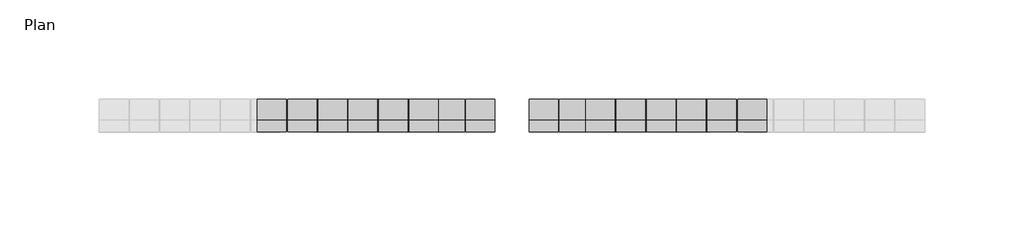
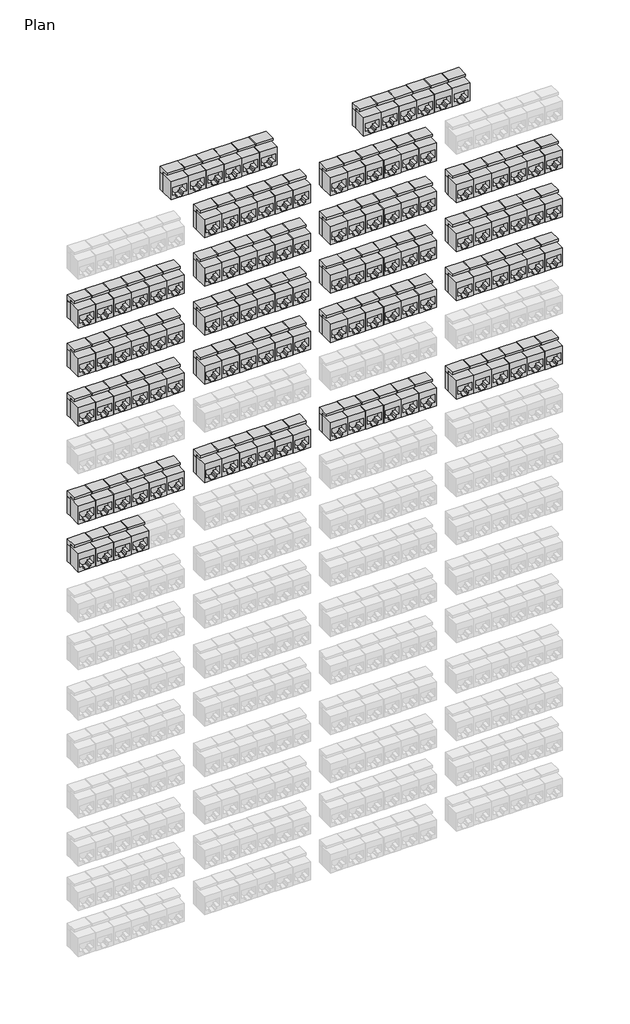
# One storey, part 1 of 3: 124 electric appliances.
"""IFC4 building model written with IfcOpenShell, lengths in millimetres."""

from ifc_helpers import new_model, si_unit, origin, place, context, project, spatial, transform, mapped, element, save
from components import cat_6_282648a7

model = new_model("IFC4")

# Units and contexts
model_context = context("Model", 3, world=origin())
ifc_project = project(units=[si_unit("LENGTHUNIT", "METRE", prefix="MILLI")], contexts=[model_context])

# Site, building, storey
site = spatial("IfcSite", under=ifc_project)
building = spatial("IfcBuilding", under=site)
storey = spatial("IfcBuildingStorey", under=building, Name="Plan", Elevation=0.0)

# Electric appliances
placement = place(None, origin())
cat_6_shape = cat_6_282648a7(model_context)
element("IfcElectricAppliance", 1, ObjectType="Data_Device-Network-Leviton-Connector-Copper-110_Style : CAT 6", at=placement, inside=storey, context=model_context, shape_type="MappedRepresentation", body=[
    mapped(cat_6_shape, transform((2671.529801, -458.5752001, 575.6402), x_axis=(1.0, 0.0, 0.0), y_axis=(0.0, 0.0, 1.0), z_axis=(0.0, -1.0, 0.0))),
])
element("IfcElectricAppliance", 2, ObjectType="Data_Device-Network-Leviton-Connector-Copper-110_Style : CAT 6", at=placement, inside=storey, context=model_context, shape_type="MappedRepresentation", body=[
    mapped(cat_6_shape, transform((2686.769801, -458.5752001, 575.6402), x_axis=(1.0, 0.0, 0.0), y_axis=(0.0, 0.0, 1.0), z_axis=(0.0, -1.0, 0.0))),
])
element("IfcElectricAppliance", 3, ObjectType="Data_Device-Network-Leviton-Connector-Copper-110_Style : CAT 6", at=placement, inside=storey, context=model_context, shape_type="MappedRepresentation", body=[
    mapped(cat_6_shape, transform((2702.009801, -458.5752001, 575.6402), x_axis=(1.0, 0.0, 0.0), y_axis=(0.0, 0.0, 1.0), z_axis=(0.0, -1.0, 0.0))),
])
element("IfcElectricAppliance", 4, ObjectType="Data_Device-Network-Leviton-Connector-Copper-110_Style : CAT 6", at=placement, inside=storey, context=model_context, shape_type="MappedRepresentation", body=[
    mapped(cat_6_shape, transform((2717.249801, -458.5752001, 575.6402), x_axis=(1.0, 0.0, 0.0), y_axis=(0.0, 0.0, 1.0), z_axis=(0.0, -1.0, 0.0))),
])
element("IfcElectricAppliance", 5, ObjectType="Data_Device-Network-Leviton-Connector-Copper-110_Style : CAT 6", at=placement, inside=storey, context=model_context, shape_type="MappedRepresentation", body=[
    mapped(cat_6_shape, transform((2732.489801, -458.5752001, 575.6402), x_axis=(1.0, 0.0, 0.0), y_axis=(0.0, 0.0, 1.0), z_axis=(0.0, -1.0, 0.0))),
])
element("IfcElectricAppliance", 6, ObjectType="Data_Device-Network-Leviton-Connector-Copper-110_Style : CAT 6", at=placement, inside=storey, context=model_context, shape_type="MappedRepresentation", body=[
    mapped(cat_6_shape, transform((2747.729801, -458.5752001, 575.6402), x_axis=(1.0, 0.0, 0.0), y_axis=(0.0, 0.0, 1.0), z_axis=(0.0, -1.0, 0.0))),
])
element("IfcElectricAppliance", 7, ObjectType="Data_Device-Network-Leviton-Connector-Copper-110_Style : CAT 6", at=placement, inside=storey, context=model_context, shape_type="MappedRepresentation", body=[
    mapped(cat_6_shape, transform((2836.629801, -458.5752001, 575.6402), x_axis=(1.0, 0.0, 0.0), y_axis=(0.0, 0.0, 1.0), z_axis=(0.0, -1.0, 0.0))),
])
element("IfcElectricAppliance", 8, ObjectType="Data_Device-Network-Leviton-Connector-Copper-110_Style : CAT 6", at=placement, inside=storey, context=model_context, shape_type="MappedRepresentation", body=[
    mapped(cat_6_shape, transform((2851.869801, -458.5752001, 575.6402), x_axis=(1.0, 0.0, 0.0), y_axis=(0.0, 0.0, 1.0), z_axis=(0.0, -1.0, 0.0))),
])
element("IfcElectricAppliance", 9, ObjectType="Data_Device-Network-Leviton-Connector-Copper-110_Style : CAT 6", at=placement, inside=storey, context=model_context, shape_type="MappedRepresentation", body=[
    mapped(cat_6_shape, transform((2867.109801, -458.5752001, 575.6402), x_axis=(1.0, 0.0, 0.0), y_axis=(0.0, 0.0, 1.0), z_axis=(0.0, -1.0, 0.0))),
])
element("IfcElectricAppliance", 10, ObjectType="Data_Device-Network-Leviton-Connector-Copper-110_Style : CAT 6", at=placement, inside=storey, context=model_context, shape_type="MappedRepresentation", body=[
    mapped(cat_6_shape, transform((2882.349801, -458.5752001, 575.6402), x_axis=(1.0, 0.0, 0.0), y_axis=(0.0, 0.0, 1.0), z_axis=(0.0, -1.0, 0.0))),
])
element("IfcElectricAppliance", 11, ObjectType="Data_Device-Network-Leviton-Connector-Copper-110_Style : CAT 6", at=placement, inside=storey, context=model_context, shape_type="MappedRepresentation", body=[
    mapped(cat_6_shape, transform((2897.589801, -458.5752001, 575.6402), x_axis=(1.0, 0.0, 0.0), y_axis=(0.0, 0.0, 1.0), z_axis=(0.0, -1.0, 0.0))),
])
element("IfcElectricAppliance", 12, ObjectType="Data_Device-Network-Leviton-Connector-Copper-110_Style : CAT 6", at=placement, inside=storey, context=model_context, shape_type="MappedRepresentation", body=[
    mapped(cat_6_shape, transform((2912.829801, -458.5752001, 575.6402), x_axis=(1.0, 0.0, 0.0), y_axis=(0.0, 0.0, 1.0), z_axis=(0.0, -1.0, 0.0))),
])
element("IfcElectricAppliance", 13, ObjectType="Data_Device-Network-Leviton-Connector-Copper-110_Style : CAT 6", at=placement, inside=storey, context=model_context, shape_type="MappedRepresentation", body=[
    mapped(cat_6_shape, transform((2700.104801, -458.5752001, 531.4969969), x_axis=(1.0, 0.0, 0.0), y_axis=(0.0, 0.0, 1.0), z_axis=(0.0, -1.0, 0.0))),
])
element("IfcElectricAppliance", 14, ObjectType="Data_Device-Network-Leviton-Connector-Copper-110_Style : CAT 6", at=placement, inside=storey, context=model_context, shape_type="MappedRepresentation", body=[
    mapped(cat_6_shape, transform((2715.344801, -458.5752001, 531.4969969), x_axis=(1.0, 0.0, 0.0), y_axis=(0.0, 0.0, 1.0), z_axis=(0.0, -1.0, 0.0))),
])
element("IfcElectricAppliance", 15, ObjectType="Data_Device-Network-Leviton-Connector-Copper-110_Style : CAT 6", at=placement, inside=storey, context=model_context, shape_type="MappedRepresentation", body=[
    mapped(cat_6_shape, transform((2730.584801, -458.5752001, 531.4969969), x_axis=(1.0, 0.0, 0.0), y_axis=(0.0, 0.0, 1.0), z_axis=(0.0, -1.0, 0.0))),
])
element("IfcElectricAppliance", 16, ObjectType="Data_Device-Network-Leviton-Connector-Copper-110_Style : CAT 6", at=placement, inside=storey, context=model_context, shape_type="MappedRepresentation", body=[
    mapped(cat_6_shape, transform((2745.824801, -458.5752001, 531.4969969), x_axis=(1.0, 0.0, 0.0), y_axis=(0.0, 0.0, 1.0), z_axis=(0.0, -1.0, 0.0))),
])
element("IfcElectricAppliance", 17, ObjectType="Data_Device-Network-Leviton-Connector-Copper-110_Style : CAT 6", at=placement, inside=storey, context=model_context, shape_type="MappedRepresentation", body=[
    mapped(cat_6_shape, transform((2761.064801, -458.5752001, 531.4969969), x_axis=(1.0, 0.0, 0.0), y_axis=(0.0, 0.0, 1.0), z_axis=(0.0, -1.0, 0.0))),
])
element("IfcElectricAppliance", 18, ObjectType="Data_Device-Network-Leviton-Connector-Copper-110_Style : CAT 6", at=placement, inside=storey, context=model_context, shape_type="MappedRepresentation", body=[
    mapped(cat_6_shape, transform((2776.304801, -458.5752001, 531.4969969), x_axis=(1.0, 0.0, 0.0), y_axis=(0.0, 0.0, 1.0), z_axis=(0.0, -1.0, 0.0))),
])
element("IfcElectricAppliance", 19, ObjectType="Data_Device-Network-Leviton-Connector-Copper-110_Style : CAT 6", at=placement, inside=storey, context=model_context, shape_type="MappedRepresentation", body=[
    mapped(cat_6_shape, transform((2808.054801, -458.5752001, 531.4969969), x_axis=(1.0, 0.0, 0.0), y_axis=(0.0, 0.0, 1.0), z_axis=(0.0, -1.0, 0.0))),
])
element("IfcElectricAppliance", 20, ObjectType="Data_Device-Network-Leviton-Connector-Copper-110_Style : CAT 6", at=placement, inside=storey, context=model_context, shape_type="MappedRepresentation", body=[
    mapped(cat_6_shape, transform((2823.294801, -458.5752001, 531.4969969), x_axis=(1.0, 0.0, 0.0), y_axis=(0.0, 0.0, 1.0), z_axis=(0.0, -1.0, 0.0))),
])
element("IfcElectricAppliance", 21, ObjectType="Data_Device-Network-Leviton-Connector-Copper-110_Style : CAT 6", at=placement, inside=storey, context=model_context, shape_type="MappedRepresentation", body=[
    mapped(cat_6_shape, transform((2838.534801, -458.5752001, 531.4969969), x_axis=(1.0, 0.0, 0.0), y_axis=(0.0, 0.0, 1.0), z_axis=(0.0, -1.0, 0.0))),
])
element("IfcElectricAppliance", 22, ObjectType="Data_Device-Network-Leviton-Connector-Copper-110_Style : CAT 6", at=placement, inside=storey, context=model_context, shape_type="MappedRepresentation", body=[
    mapped(cat_6_shape, transform((2853.774801, -458.5752001, 531.4969969), x_axis=(1.0, 0.0, 0.0), y_axis=(0.0, 0.0, 1.0), z_axis=(0.0, -1.0, 0.0))),
])
element("IfcElectricAppliance", 23, ObjectType="Data_Device-Network-Leviton-Connector-Copper-110_Style : CAT 6", at=placement, inside=storey, context=model_context, shape_type="MappedRepresentation", body=[
    mapped(cat_6_shape, transform((2869.014801, -458.5752001, 531.4969969), x_axis=(1.0, 0.0, 0.0), y_axis=(0.0, 0.0, 1.0), z_axis=(0.0, -1.0, 0.0))),
])
element("IfcElectricAppliance", 24, ObjectType="Data_Device-Network-Leviton-Connector-Copper-110_Style : CAT 6", at=placement, inside=storey, context=model_context, shape_type="MappedRepresentation", body=[
    mapped(cat_6_shape, transform((2884.254801, -458.5752001, 531.4969969), x_axis=(1.0, 0.0, 0.0), y_axis=(0.0, 0.0, 1.0), z_axis=(0.0, -1.0, 0.0))),
])
element("IfcElectricAppliance", 25, ObjectType="Data_Device-Network-Leviton-Connector-Copper-110_Style : CAT 6", at=placement, inside=storey, context=model_context, shape_type="MappedRepresentation", body=[
    mapped(cat_6_shape, transform((2592.154801, -458.5752001, 487.3537939), x_axis=(1.0, 0.0, 0.0), y_axis=(0.0, 0.0, 1.0), z_axis=(0.0, -1.0, 0.0))),
])
element("IfcElectricAppliance", 26, ObjectType="Data_Device-Network-Leviton-Connector-Copper-110_Style : CAT 6", at=placement, inside=storey, context=model_context, shape_type="MappedRepresentation", body=[
    mapped(cat_6_shape, transform((2607.394801, -458.5752001, 487.3537939), x_axis=(1.0, 0.0, 0.0), y_axis=(0.0, 0.0, 1.0), z_axis=(0.0, -1.0, 0.0))),
])
element("IfcElectricAppliance", 27, ObjectType="Data_Device-Network-Leviton-Connector-Copper-110_Style : CAT 6", at=placement, inside=storey, context=model_context, shape_type="MappedRepresentation", body=[
    mapped(cat_6_shape, transform((2622.634801, -458.5752001, 487.3537939), x_axis=(1.0, 0.0, 0.0), y_axis=(0.0, 0.0, 1.0), z_axis=(0.0, -1.0, 0.0))),
])
element("IfcElectricAppliance", 28, ObjectType="Data_Device-Network-Leviton-Connector-Copper-110_Style : CAT 6", at=placement, inside=storey, context=model_context, shape_type="MappedRepresentation", body=[
    mapped(cat_6_shape, transform((2637.874801, -458.5752001, 487.3537939), x_axis=(1.0, 0.0, 0.0), y_axis=(0.0, 0.0, 1.0), z_axis=(0.0, -1.0, 0.0))),
])
element("IfcElectricAppliance", 29, ObjectType="Data_Device-Network-Leviton-Connector-Copper-110_Style : CAT 6", at=placement, inside=storey, context=model_context, shape_type="MappedRepresentation", body=[
    mapped(cat_6_shape, transform((2653.114801, -458.5752001, 487.3537939), x_axis=(1.0, 0.0, 0.0), y_axis=(0.0, 0.0, 1.0), z_axis=(0.0, -1.0, 0.0))),
])
element("IfcElectricAppliance", 30, ObjectType="Data_Device-Network-Leviton-Connector-Copper-110_Style : CAT 6", at=placement, inside=storey, context=model_context, shape_type="MappedRepresentation", body=[
    mapped(cat_6_shape, transform((2668.354801, -458.5752001, 487.3537939), x_axis=(1.0, 0.0, 0.0), y_axis=(0.0, 0.0, 1.0), z_axis=(0.0, -1.0, 0.0))),
])
element("IfcElectricAppliance", 31, ObjectType="Data_Device-Network-Leviton-Connector-Copper-110_Style : CAT 6", at=placement, inside=storey, context=model_context, shape_type="MappedRepresentation", body=[
    mapped(cat_6_shape, transform((2916.004801, -458.5752001, 487.3537939), x_axis=(1.0, 0.0, 0.0), y_axis=(0.0, 0.0, 1.0), z_axis=(0.0, -1.0, 0.0))),
])
element("IfcElectricAppliance", 32, ObjectType="Data_Device-Network-Leviton-Connector-Copper-110_Style : CAT 6", at=placement, inside=storey, context=model_context, shape_type="MappedRepresentation", body=[
    mapped(cat_6_shape, transform((2931.244801, -458.5752001, 487.3537939), x_axis=(1.0, 0.0, 0.0), y_axis=(0.0, 0.0, 1.0), z_axis=(0.0, -1.0, 0.0))),
])
element("IfcElectricAppliance", 33, ObjectType="Data_Device-Network-Leviton-Connector-Copper-110_Style : CAT 6", at=placement, inside=storey, context=model_context, shape_type="MappedRepresentation", body=[
    mapped(cat_6_shape, transform((2946.484801, -458.5752001, 487.3537939), x_axis=(1.0, 0.0, 0.0), y_axis=(0.0, 0.0, 1.0), z_axis=(0.0, -1.0, 0.0))),
])
element("IfcElectricAppliance", 34, ObjectType="Data_Device-Network-Leviton-Connector-Copper-110_Style : CAT 6", at=placement, inside=storey, context=model_context, shape_type="MappedRepresentation", body=[
    mapped(cat_6_shape, transform((2961.724801, -458.5752001, 487.3537939), x_axis=(1.0, 0.0, 0.0), y_axis=(0.0, 0.0, 1.0), z_axis=(0.0, -1.0, 0.0))),
])
element("IfcElectricAppliance", 35, ObjectType="Data_Device-Network-Leviton-Connector-Copper-110_Style : CAT 6", at=placement, inside=storey, context=model_context, shape_type="MappedRepresentation", body=[
    mapped(cat_6_shape, transform((2976.964801, -458.5752001, 487.3537939), x_axis=(1.0, 0.0, 0.0), y_axis=(0.0, 0.0, 1.0), z_axis=(0.0, -1.0, 0.0))),
])
element("IfcElectricAppliance", 36, ObjectType="Data_Device-Network-Leviton-Connector-Copper-110_Style : CAT 6", at=placement, inside=storey, context=model_context, shape_type="MappedRepresentation", body=[
    mapped(cat_6_shape, transform((2992.204801, -458.5752001, 487.3537939), x_axis=(1.0, 0.0, 0.0), y_axis=(0.0, 0.0, 1.0), z_axis=(0.0, -1.0, 0.0))),
])
element("IfcElectricAppliance", 37, ObjectType="Data_Device-Network-Leviton-Connector-Copper-110_Style : CAT 6", at=placement, inside=storey, context=model_context, shape_type="MappedRepresentation", body=[
    mapped(cat_6_shape, transform((2700.104801, -458.5752001, 487.3537939), x_axis=(1.0, 0.0, 0.0), y_axis=(0.0, 0.0, 1.0), z_axis=(0.0, -1.0, 0.0))),
])
element("IfcElectricAppliance", 38, ObjectType="Data_Device-Network-Leviton-Connector-Copper-110_Style : CAT 6", at=placement, inside=storey, context=model_context, shape_type="MappedRepresentation", body=[
    mapped(cat_6_shape, transform((2715.344801, -458.5752001, 487.3537939), x_axis=(1.0, 0.0, 0.0), y_axis=(0.0, 0.0, 1.0), z_axis=(0.0, -1.0, 0.0))),
])
element("IfcElectricAppliance", 39, ObjectType="Data_Device-Network-Leviton-Connector-Copper-110_Style : CAT 6", at=placement, inside=storey, context=model_context, shape_type="MappedRepresentation", body=[
    mapped(cat_6_shape, transform((2730.584801, -458.5752001, 487.3537939), x_axis=(1.0, 0.0, 0.0), y_axis=(0.0, 0.0, 1.0), z_axis=(0.0, -1.0, 0.0))),
])
element("IfcElectricAppliance", 40, ObjectType="Data_Device-Network-Leviton-Connector-Copper-110_Style : CAT 6", at=placement, inside=storey, context=model_context, shape_type="MappedRepresentation", body=[
    mapped(cat_6_shape, transform((2745.824801, -458.5752001, 487.3537939), x_axis=(1.0, 0.0, 0.0), y_axis=(0.0, 0.0, 1.0), z_axis=(0.0, -1.0, 0.0))),
])
element("IfcElectricAppliance", 41, ObjectType="Data_Device-Network-Leviton-Connector-Copper-110_Style : CAT 6", at=placement, inside=storey, context=model_context, shape_type="MappedRepresentation", body=[
    mapped(cat_6_shape, transform((2761.064801, -458.5752001, 487.3537939), x_axis=(1.0, 0.0, 0.0), y_axis=(0.0, 0.0, 1.0), z_axis=(0.0, -1.0, 0.0))),
])
element("IfcElectricAppliance", 42, ObjectType="Data_Device-Network-Leviton-Connector-Copper-110_Style : CAT 6", at=placement, inside=storey, context=model_context, shape_type="MappedRepresentation", body=[
    mapped(cat_6_shape, transform((2776.304801, -458.5752001, 487.3537939), x_axis=(1.0, 0.0, 0.0), y_axis=(0.0, 0.0, 1.0), z_axis=(0.0, -1.0, 0.0))),
])
element("IfcElectricAppliance", 43, ObjectType="Data_Device-Network-Leviton-Connector-Copper-110_Style : CAT 6", at=placement, inside=storey, context=model_context, shape_type="MappedRepresentation", body=[
    mapped(cat_6_shape, transform((2808.054801, -458.5752001, 487.3537939), x_axis=(1.0, 0.0, 0.0), y_axis=(0.0, 0.0, 1.0), z_axis=(0.0, -1.0, 0.0))),
])
element("IfcElectricAppliance", 44, ObjectType="Data_Device-Network-Leviton-Connector-Copper-110_Style : CAT 6", at=placement, inside=storey, context=model_context, shape_type="MappedRepresentation", body=[
    mapped(cat_6_shape, transform((2823.294801, -458.5752001, 487.3537939), x_axis=(1.0, 0.0, 0.0), y_axis=(0.0, 0.0, 1.0), z_axis=(0.0, -1.0, 0.0))),
])
element("IfcElectricAppliance", 45, ObjectType="Data_Device-Network-Leviton-Connector-Copper-110_Style : CAT 6", at=placement, inside=storey, context=model_context, shape_type="MappedRepresentation", body=[
    mapped(cat_6_shape, transform((2838.534801, -458.5752001, 487.3537939), x_axis=(1.0, 0.0, 0.0), y_axis=(0.0, 0.0, 1.0), z_axis=(0.0, -1.0, 0.0))),
])
element("IfcElectricAppliance", 46, ObjectType="Data_Device-Network-Leviton-Connector-Copper-110_Style : CAT 6", at=placement, inside=storey, context=model_context, shape_type="MappedRepresentation", body=[
    mapped(cat_6_shape, transform((2853.774801, -458.5752001, 487.3537939), x_axis=(1.0, 0.0, 0.0), y_axis=(0.0, 0.0, 1.0), z_axis=(0.0, -1.0, 0.0))),
])
element("IfcElectricAppliance", 47, ObjectType="Data_Device-Network-Leviton-Connector-Copper-110_Style : CAT 6", at=placement, inside=storey, context=model_context, shape_type="MappedRepresentation", body=[
    mapped(cat_6_shape, transform((2869.014801, -458.5752001, 487.3537939), x_axis=(1.0, 0.0, 0.0), y_axis=(0.0, 0.0, 1.0), z_axis=(0.0, -1.0, 0.0))),
])
element("IfcElectricAppliance", 48, ObjectType="Data_Device-Network-Leviton-Connector-Copper-110_Style : CAT 6", at=placement, inside=storey, context=model_context, shape_type="MappedRepresentation", body=[
    mapped(cat_6_shape, transform((2884.254801, -458.5752001, 487.3537939), x_axis=(1.0, 0.0, 0.0), y_axis=(0.0, 0.0, 1.0), z_axis=(0.0, -1.0, 0.0))),
])
element("IfcElectricAppliance", 49, ObjectType="Data_Device-Network-Leviton-Connector-Copper-110_Style : CAT 6", at=placement, inside=storey, context=model_context, shape_type="MappedRepresentation", body=[
    mapped(cat_6_shape, transform((2592.154801, -458.5752001, 398.7288408), x_axis=(1.0, 0.0, 0.0), y_axis=(0.0, 0.0, 1.0), z_axis=(0.0, -1.0, 0.0))),
])
element("IfcElectricAppliance", 50, ObjectType="Data_Device-Network-Leviton-Connector-Copper-110_Style : CAT 6", at=placement, inside=storey, context=model_context, shape_type="MappedRepresentation", body=[
    mapped(cat_6_shape, transform((2607.394801, -458.5752001, 398.7288408), x_axis=(1.0, 0.0, 0.0), y_axis=(0.0, 0.0, 1.0), z_axis=(0.0, -1.0, 0.0))),
])
element("IfcElectricAppliance", 51, ObjectType="Data_Device-Network-Leviton-Connector-Copper-110_Style : CAT 6", at=placement, inside=storey, context=model_context, shape_type="MappedRepresentation", body=[
    mapped(cat_6_shape, transform((2622.634801, -458.5752001, 398.7288408), x_axis=(1.0, 0.0, 0.0), y_axis=(0.0, 0.0, 1.0), z_axis=(0.0, -1.0, 0.0))),
])
element("IfcElectricAppliance", 52, ObjectType="Data_Device-Network-Leviton-Connector-Copper-110_Style : CAT 6", at=placement, inside=storey, context=model_context, shape_type="MappedRepresentation", body=[
    mapped(cat_6_shape, transform((2637.874801, -458.5752001, 398.7288408), x_axis=(1.0, 0.0, 0.0), y_axis=(0.0, 0.0, 1.0), z_axis=(0.0, -1.0, 0.0))),
])
element("IfcElectricAppliance", 53, ObjectType="Data_Device-Network-Leviton-Connector-Copper-110_Style : CAT 6", at=placement, inside=storey, context=model_context, shape_type="MappedRepresentation", body=[
    mapped(cat_6_shape, transform((2653.114801, -458.5752001, 398.7288408), x_axis=(1.0, 0.0, 0.0), y_axis=(0.0, 0.0, 1.0), z_axis=(0.0, -1.0, 0.0))),
])
element("IfcElectricAppliance", 54, ObjectType="Data_Device-Network-Leviton-Connector-Copper-110_Style : CAT 6", at=placement, inside=storey, context=model_context, shape_type="MappedRepresentation", body=[
    mapped(cat_6_shape, transform((2668.354801, -458.5752001, 398.7288408), x_axis=(1.0, 0.0, 0.0), y_axis=(0.0, 0.0, 1.0), z_axis=(0.0, -1.0, 0.0))),
])
element("IfcElectricAppliance", 55, ObjectType="Data_Device-Network-Leviton-Connector-Copper-110_Style : CAT 6", at=placement, inside=storey, context=model_context, shape_type="MappedRepresentation", body=[
    mapped(cat_6_shape, transform((2916.004801, -458.5752001, 398.7288408), x_axis=(1.0, 0.0, 0.0), y_axis=(0.0, 0.0, 1.0), z_axis=(0.0, -1.0, 0.0))),
])
element("IfcElectricAppliance", 56, ObjectType="Data_Device-Network-Leviton-Connector-Copper-110_Style : CAT 6", at=placement, inside=storey, context=model_context, shape_type="MappedRepresentation", body=[
    mapped(cat_6_shape, transform((2931.244801, -458.5752001, 398.7288408), x_axis=(1.0, 0.0, 0.0), y_axis=(0.0, 0.0, 1.0), z_axis=(0.0, -1.0, 0.0))),
])
element("IfcElectricAppliance", 57, ObjectType="Data_Device-Network-Leviton-Connector-Copper-110_Style : CAT 6", at=placement, inside=storey, context=model_context, shape_type="MappedRepresentation", body=[
    mapped(cat_6_shape, transform((2946.484801, -458.5752001, 398.7288408), x_axis=(1.0, 0.0, 0.0), y_axis=(0.0, 0.0, 1.0), z_axis=(0.0, -1.0, 0.0))),
])
element("IfcElectricAppliance", 58, ObjectType="Data_Device-Network-Leviton-Connector-Copper-110_Style : CAT 6", at=placement, inside=storey, context=model_context, shape_type="MappedRepresentation", body=[
    mapped(cat_6_shape, transform((2961.724801, -458.5752001, 398.7288408), x_axis=(1.0, 0.0, 0.0), y_axis=(0.0, 0.0, 1.0), z_axis=(0.0, -1.0, 0.0))),
])
element("IfcElectricAppliance", 59, ObjectType="Data_Device-Network-Leviton-Connector-Copper-110_Style : CAT 6", at=placement, inside=storey, context=model_context, shape_type="MappedRepresentation", body=[
    mapped(cat_6_shape, transform((2976.964801, -458.5752001, 398.7288408), x_axis=(1.0, 0.0, 0.0), y_axis=(0.0, 0.0, 1.0), z_axis=(0.0, -1.0, 0.0))),
])
element("IfcElectricAppliance", 60, ObjectType="Data_Device-Network-Leviton-Connector-Copper-110_Style : CAT 6", at=placement, inside=storey, context=model_context, shape_type="MappedRepresentation", body=[
    mapped(cat_6_shape, transform((2992.204801, -458.5752001, 398.7288408), x_axis=(1.0, 0.0, 0.0), y_axis=(0.0, 0.0, 1.0), z_axis=(0.0, -1.0, 0.0))),
])
element("IfcElectricAppliance", 61, ObjectType="Data_Device-Network-Leviton-Connector-Copper-110_Style : CAT 6", at=placement, inside=storey, context=model_context, shape_type="MappedRepresentation", body=[
    mapped(cat_6_shape, transform((2700.104801, -458.5752001, 398.7288408), x_axis=(1.0, 0.0, 0.0), y_axis=(0.0, 0.0, 1.0), z_axis=(0.0, -1.0, 0.0))),
])
element("IfcElectricAppliance", 62, ObjectType="Data_Device-Network-Leviton-Connector-Copper-110_Style : CAT 6", at=placement, inside=storey, context=model_context, shape_type="MappedRepresentation", body=[
    mapped(cat_6_shape, transform((2715.344801, -458.5752001, 398.7288408), x_axis=(1.0, 0.0, 0.0), y_axis=(0.0, 0.0, 1.0), z_axis=(0.0, -1.0, 0.0))),
])
element("IfcElectricAppliance", 63, ObjectType="Data_Device-Network-Leviton-Connector-Copper-110_Style : CAT 6", at=placement, inside=storey, context=model_context, shape_type="MappedRepresentation", body=[
    mapped(cat_6_shape, transform((2730.584801, -458.5752001, 398.7288408), x_axis=(1.0, 0.0, 0.0), y_axis=(0.0, 0.0, 1.0), z_axis=(0.0, -1.0, 0.0))),
])
element("IfcElectricAppliance", 64, ObjectType="Data_Device-Network-Leviton-Connector-Copper-110_Style : CAT 6", at=placement, inside=storey, context=model_context, shape_type="MappedRepresentation", body=[
    mapped(cat_6_shape, transform((2745.824801, -458.5752001, 398.7288408), x_axis=(1.0, 0.0, 0.0), y_axis=(0.0, 0.0, 1.0), z_axis=(0.0, -1.0, 0.0))),
])
element("IfcElectricAppliance", 65, ObjectType="Data_Device-Network-Leviton-Connector-Copper-110_Style : CAT 6", at=placement, inside=storey, context=model_context, shape_type="MappedRepresentation", body=[
    mapped(cat_6_shape, transform((2761.064801, -458.5752001, 398.7288408), x_axis=(1.0, 0.0, 0.0), y_axis=(0.0, 0.0, 1.0), z_axis=(0.0, -1.0, 0.0))),
])
element("IfcElectricAppliance", 66, ObjectType="Data_Device-Network-Leviton-Connector-Copper-110_Style : CAT 6", at=placement, inside=storey, context=model_context, shape_type="MappedRepresentation", body=[
    mapped(cat_6_shape, transform((2776.304801, -458.5752001, 398.7288408), x_axis=(1.0, 0.0, 0.0), y_axis=(0.0, 0.0, 1.0), z_axis=(0.0, -1.0, 0.0))),
])
element("IfcElectricAppliance", 67, ObjectType="Data_Device-Network-Leviton-Connector-Copper-110_Style : CAT 6", at=placement, inside=storey, context=model_context, shape_type="MappedRepresentation", body=[
    mapped(cat_6_shape, transform((2808.054801, -458.5752001, 398.7288408), x_axis=(1.0, 0.0, 0.0), y_axis=(0.0, 0.0, 1.0), z_axis=(0.0, -1.0, 0.0))),
])
element("IfcElectricAppliance", 68, ObjectType="Data_Device-Network-Leviton-Connector-Copper-110_Style : CAT 6", at=placement, inside=storey, context=model_context, shape_type="MappedRepresentation", body=[
    mapped(cat_6_shape, transform((2823.294801, -458.5752001, 398.7288408), x_axis=(1.0, 0.0, 0.0), y_axis=(0.0, 0.0, 1.0), z_axis=(0.0, -1.0, 0.0))),
])
element("IfcElectricAppliance", 69, ObjectType="Data_Device-Network-Leviton-Connector-Copper-110_Style : CAT 6", at=placement, inside=storey, context=model_context, shape_type="MappedRepresentation", body=[
    mapped(cat_6_shape, transform((2838.534801, -458.5752001, 398.7288408), x_axis=(1.0, 0.0, 0.0), y_axis=(0.0, 0.0, 1.0), z_axis=(0.0, -1.0, 0.0))),
])
element("IfcElectricAppliance", 70, ObjectType="Data_Device-Network-Leviton-Connector-Copper-110_Style : CAT 6", at=placement, inside=storey, context=model_context, shape_type="MappedRepresentation", body=[
    mapped(cat_6_shape, transform((2853.774801, -458.5752001, 398.7288408), x_axis=(1.0, 0.0, 0.0), y_axis=(0.0, 0.0, 1.0), z_axis=(0.0, -1.0, 0.0))),
])
element("IfcElectricAppliance", 71, ObjectType="Data_Device-Network-Leviton-Connector-Copper-110_Style : CAT 6", at=placement, inside=storey, context=model_context, shape_type="MappedRepresentation", body=[
    mapped(cat_6_shape, transform((2869.014801, -458.5752001, 398.7288408), x_axis=(1.0, 0.0, 0.0), y_axis=(0.0, 0.0, 1.0), z_axis=(0.0, -1.0, 0.0))),
])
element("IfcElectricAppliance", 72, ObjectType="Data_Device-Network-Leviton-Connector-Copper-110_Style : CAT 6", at=placement, inside=storey, context=model_context, shape_type="MappedRepresentation", body=[
    mapped(cat_6_shape, transform((2884.254801, -458.5752001, 398.7288408), x_axis=(1.0, 0.0, 0.0), y_axis=(0.0, 0.0, 1.0), z_axis=(0.0, -1.0, 0.0))),
])
element("IfcElectricAppliance", 73, ObjectType="Data_Device-Network-Leviton-Connector-Copper-110_Style : CAT 6", at=placement, inside=storey, context=model_context, shape_type="MappedRepresentation", body=[
    mapped(cat_6_shape, transform((2592.154801, -458.5752001, 309.7970908), x_axis=(1.0, 0.0, 0.0), y_axis=(0.0, 0.0, 1.0), z_axis=(0.0, -1.0, 0.0))),
])
element("IfcElectricAppliance", 74, ObjectType="Data_Device-Network-Leviton-Connector-Copper-110_Style : CAT 6", at=placement, inside=storey, context=model_context, shape_type="MappedRepresentation", body=[
    mapped(cat_6_shape, transform((2607.394801, -458.5752001, 309.7970908), x_axis=(1.0, 0.0, 0.0), y_axis=(0.0, 0.0, 1.0), z_axis=(0.0, -1.0, 0.0))),
])
element("IfcElectricAppliance", 75, ObjectType="Data_Device-Network-Leviton-Connector-Copper-110_Style : CAT 6", at=placement, inside=storey, context=model_context, shape_type="MappedRepresentation", body=[
    mapped(cat_6_shape, transform((2622.634801, -458.5752001, 309.7970908), x_axis=(1.0, 0.0, 0.0), y_axis=(0.0, 0.0, 1.0), z_axis=(0.0, -1.0, 0.0))),
])
element("IfcElectricAppliance", 76, ObjectType="Data_Device-Network-Leviton-Connector-Copper-110_Style : CAT 6", at=placement, inside=storey, context=model_context, shape_type="MappedRepresentation", body=[
    mapped(cat_6_shape, transform((2637.874801, -458.5752001, 309.7970908), x_axis=(1.0, 0.0, 0.0), y_axis=(0.0, 0.0, 1.0), z_axis=(0.0, -1.0, 0.0))),
])
element("IfcElectricAppliance", 77, ObjectType="Data_Device-Network-Leviton-Connector-Copper-110_Style : CAT 6", at=placement, inside=storey, context=model_context, shape_type="MappedRepresentation", body=[
    mapped(cat_6_shape, transform((2653.114801, -458.5752001, 309.7970908), x_axis=(1.0, 0.0, 0.0), y_axis=(0.0, 0.0, 1.0), z_axis=(0.0, -1.0, 0.0))),
])
element("IfcElectricAppliance", 78, ObjectType="Data_Device-Network-Leviton-Connector-Copper-110_Style : CAT 6", at=placement, inside=storey, context=model_context, shape_type="MappedRepresentation", body=[
    mapped(cat_6_shape, transform((2668.354801, -458.5752001, 309.7970908), x_axis=(1.0, 0.0, 0.0), y_axis=(0.0, 0.0, 1.0), z_axis=(0.0, -1.0, 0.0))),
])
element("IfcElectricAppliance", 79, ObjectType="Data_Device-Network-Leviton-Connector-Copper-110_Style : CAT 6", at=placement, inside=storey, context=model_context, shape_type="MappedRepresentation", body=[
    mapped(cat_6_shape, transform((2916.004801, -458.5752001, 309.7970908), x_axis=(1.0, 0.0, 0.0), y_axis=(0.0, 0.0, 1.0), z_axis=(0.0, -1.0, 0.0))),
])
element("IfcElectricAppliance", 80, ObjectType="Data_Device-Network-Leviton-Connector-Copper-110_Style : CAT 6", at=placement, inside=storey, context=model_context, shape_type="MappedRepresentation", body=[
    mapped(cat_6_shape, transform((2931.244801, -458.5752001, 309.7970908), x_axis=(1.0, 0.0, 0.0), y_axis=(0.0, 0.0, 1.0), z_axis=(0.0, -1.0, 0.0))),
])
element("IfcElectricAppliance", 81, ObjectType="Data_Device-Network-Leviton-Connector-Copper-110_Style : CAT 6", at=placement, inside=storey, context=model_context, shape_type="MappedRepresentation", body=[
    mapped(cat_6_shape, transform((2946.484801, -458.5752001, 309.7970908), x_axis=(1.0, 0.0, 0.0), y_axis=(0.0, 0.0, 1.0), z_axis=(0.0, -1.0, 0.0))),
])
element("IfcElectricAppliance", 82, ObjectType="Data_Device-Network-Leviton-Connector-Copper-110_Style : CAT 6", at=placement, inside=storey, context=model_context, shape_type="MappedRepresentation", body=[
    mapped(cat_6_shape, transform((2961.724801, -458.5752001, 309.7970908), x_axis=(1.0, 0.0, 0.0), y_axis=(0.0, 0.0, 1.0), z_axis=(0.0, -1.0, 0.0))),
])
element("IfcElectricAppliance", 83, ObjectType="Data_Device-Network-Leviton-Connector-Copper-110_Style : CAT 6", at=placement, inside=storey, context=model_context, shape_type="MappedRepresentation", body=[
    mapped(cat_6_shape, transform((2976.964801, -458.5752001, 309.7970908), x_axis=(1.0, 0.0, 0.0), y_axis=(0.0, 0.0, 1.0), z_axis=(0.0, -1.0, 0.0))),
])
element("IfcElectricAppliance", 84, ObjectType="Data_Device-Network-Leviton-Connector-Copper-110_Style : CAT 6", at=placement, inside=storey, context=model_context, shape_type="MappedRepresentation", body=[
    mapped(cat_6_shape, transform((2992.204801, -458.5752001, 309.7970908), x_axis=(1.0, 0.0, 0.0), y_axis=(0.0, 0.0, 1.0), z_axis=(0.0, -1.0, 0.0))),
])
element("IfcElectricAppliance", 85, ObjectType="Data_Device-Network-Leviton-Connector-Copper-110_Style : CAT 6", at=placement, inside=storey, context=model_context, shape_type="MappedRepresentation", body=[
    mapped(cat_6_shape, transform((2700.104801, -458.5752001, 309.7970908), x_axis=(1.0, 0.0, 0.0), y_axis=(0.0, 0.0, 1.0), z_axis=(0.0, -1.0, 0.0))),
])
element("IfcElectricAppliance", 86, ObjectType="Data_Device-Network-Leviton-Connector-Copper-110_Style : CAT 6", at=placement, inside=storey, context=model_context, shape_type="MappedRepresentation", body=[
    mapped(cat_6_shape, transform((2715.344801, -458.5752001, 309.7970908), x_axis=(1.0, 0.0, 0.0), y_axis=(0.0, 0.0, 1.0), z_axis=(0.0, -1.0, 0.0))),
])
element("IfcElectricAppliance", 87, ObjectType="Data_Device-Network-Leviton-Connector-Copper-110_Style : CAT 6", at=placement, inside=storey, context=model_context, shape_type="MappedRepresentation", body=[
    mapped(cat_6_shape, transform((2730.584801, -458.5752001, 309.7970908), x_axis=(1.0, 0.0, 0.0), y_axis=(0.0, 0.0, 1.0), z_axis=(0.0, -1.0, 0.0))),
])
element("IfcElectricAppliance", 88, ObjectType="Data_Device-Network-Leviton-Connector-Copper-110_Style : CAT 6", at=placement, inside=storey, context=model_context, shape_type="MappedRepresentation", body=[
    mapped(cat_6_shape, transform((2745.824801, -458.5752001, 309.7970908), x_axis=(1.0, 0.0, 0.0), y_axis=(0.0, 0.0, 1.0), z_axis=(0.0, -1.0, 0.0))),
])
element("IfcElectricAppliance", 89, ObjectType="Data_Device-Network-Leviton-Connector-Copper-110_Style : CAT 6", at=placement, inside=storey, context=model_context, shape_type="MappedRepresentation", body=[
    mapped(cat_6_shape, transform((2761.064801, -458.5752001, 309.7970908), x_axis=(1.0, 0.0, 0.0), y_axis=(0.0, 0.0, 1.0), z_axis=(0.0, -1.0, 0.0))),
])
element("IfcElectricAppliance", 90, ObjectType="Data_Device-Network-Leviton-Connector-Copper-110_Style : CAT 6", at=placement, inside=storey, context=model_context, shape_type="MappedRepresentation", body=[
    mapped(cat_6_shape, transform((2776.304801, -458.5752001, 309.7970908), x_axis=(1.0, 0.0, 0.0), y_axis=(0.0, 0.0, 1.0), z_axis=(0.0, -1.0, 0.0))),
])
element("IfcElectricAppliance", 91, ObjectType="Data_Device-Network-Leviton-Connector-Copper-110_Style : CAT 6", at=placement, inside=storey, context=model_context, shape_type="MappedRepresentation", body=[
    mapped(cat_6_shape, transform((2808.054801, -458.5752001, 309.7970908), x_axis=(1.0, 0.0, 0.0), y_axis=(0.0, 0.0, 1.0), z_axis=(0.0, -1.0, 0.0))),
])
element("IfcElectricAppliance", 92, ObjectType="Data_Device-Network-Leviton-Connector-Copper-110_Style : CAT 6", at=placement, inside=storey, context=model_context, shape_type="MappedRepresentation", body=[
    mapped(cat_6_shape, transform((2823.294801, -458.5752001, 309.7970908), x_axis=(1.0, 0.0, 0.0), y_axis=(0.0, 0.0, 1.0), z_axis=(0.0, -1.0, 0.0))),
])
element("IfcElectricAppliance", 93, ObjectType="Data_Device-Network-Leviton-Connector-Copper-110_Style : CAT 6", at=placement, inside=storey, context=model_context, shape_type="MappedRepresentation", body=[
    mapped(cat_6_shape, transform((2838.534801, -458.5752001, 309.7970908), x_axis=(1.0, 0.0, 0.0), y_axis=(0.0, 0.0, 1.0), z_axis=(0.0, -1.0, 0.0))),
])
element("IfcElectricAppliance", 94, ObjectType="Data_Device-Network-Leviton-Connector-Copper-110_Style : CAT 6", at=placement, inside=storey, context=model_context, shape_type="MappedRepresentation", body=[
    mapped(cat_6_shape, transform((2853.774801, -458.5752001, 309.7970908), x_axis=(1.0, 0.0, 0.0), y_axis=(0.0, 0.0, 1.0), z_axis=(0.0, -1.0, 0.0))),
])
element("IfcElectricAppliance", 95, ObjectType="Data_Device-Network-Leviton-Connector-Copper-110_Style : CAT 6", at=placement, inside=storey, context=model_context, shape_type="MappedRepresentation", body=[
    mapped(cat_6_shape, transform((2869.014801, -458.5752001, 309.7970908), x_axis=(1.0, 0.0, 0.0), y_axis=(0.0, 0.0, 1.0), z_axis=(0.0, -1.0, 0.0))),
])
element("IfcElectricAppliance", 96, ObjectType="Data_Device-Network-Leviton-Connector-Copper-110_Style : CAT 6", at=placement, inside=storey, context=model_context, shape_type="MappedRepresentation", body=[
    mapped(cat_6_shape, transform((2884.254801, -458.5752001, 309.7970908), x_axis=(1.0, 0.0, 0.0), y_axis=(0.0, 0.0, 1.0), z_axis=(0.0, -1.0, 0.0))),
])
element("IfcElectricAppliance", 97, ObjectType="Data_Device-Network-Leviton-Connector-Copper-110_Style : CAT 6", at=placement, inside=storey, context=model_context, shape_type="MappedRepresentation", body=[
    mapped(cat_6_shape, transform((2592.154801, -458.5752001, 266.6170908), x_axis=(1.0, 0.0, 0.0), y_axis=(0.0, 0.0, 1.0), z_axis=(0.0, -1.0, 0.0))),
])
element("IfcElectricAppliance", 98, ObjectType="Data_Device-Network-Leviton-Connector-Copper-110_Style : CAT 6", at=placement, inside=storey, context=model_context, shape_type="MappedRepresentation", body=[
    mapped(cat_6_shape, transform((2607.394801, -458.5752001, 266.6170908), x_axis=(1.0, 0.0, 0.0), y_axis=(0.0, 0.0, 1.0), z_axis=(0.0, -1.0, 0.0))),
])
element("IfcElectricAppliance", 99, ObjectType="Data_Device-Network-Leviton-Connector-Copper-110_Style : CAT 6", at=placement, inside=storey, context=model_context, shape_type="MappedRepresentation", body=[
    mapped(cat_6_shape, transform((2622.634801, -458.5752001, 266.6170908), x_axis=(1.0, 0.0, 0.0), y_axis=(0.0, 0.0, 1.0), z_axis=(0.0, -1.0, 0.0))),
])
element("IfcElectricAppliance", 100, ObjectType="Data_Device-Network-Leviton-Connector-Copper-110_Style : CAT 6", at=placement, inside=storey, context=model_context, shape_type="MappedRepresentation", body=[
    mapped(cat_6_shape, transform((2637.874801, -458.5752001, 266.6170908), x_axis=(1.0, 0.0, 0.0), y_axis=(0.0, 0.0, 1.0), z_axis=(0.0, -1.0, 0.0))),
])
element("IfcElectricAppliance", 101, ObjectType="Data_Device-Network-Leviton-Connector-Copper-110_Style : CAT 6A", at=placement, inside=storey, context=model_context, shape_type="MappedRepresentation", body=[
    mapped(cat_6_shape, transform((2592.154801, -458.5752001, 443.2105908), x_axis=(1.0, 0.0, 0.0), y_axis=(0.0, 0.0, 1.0), z_axis=(0.0, -1.0, 0.0))),
])
element("IfcElectricAppliance", 102, ObjectType="Data_Device-Network-Leviton-Connector-Copper-110_Style : CAT 6A", at=placement, inside=storey, context=model_context, shape_type="MappedRepresentation", body=[
    mapped(cat_6_shape, transform((2607.394801, -458.5752001, 443.2105908), x_axis=(1.0, 0.0, 0.0), y_axis=(0.0, 0.0, 1.0), z_axis=(0.0, -1.0, 0.0))),
])
element("IfcElectricAppliance", 103, ObjectType="Data_Device-Network-Leviton-Connector-Copper-110_Style : CAT 6A", at=placement, inside=storey, context=model_context, shape_type="MappedRepresentation", body=[
    mapped(cat_6_shape, transform((2622.634801, -458.5752001, 443.2105908), x_axis=(1.0, 0.0, 0.0), y_axis=(0.0, 0.0, 1.0), z_axis=(0.0, -1.0, 0.0))),
])
element("IfcElectricAppliance", 104, ObjectType="Data_Device-Network-Leviton-Connector-Copper-110_Style : CAT 6A", at=placement, inside=storey, context=model_context, shape_type="MappedRepresentation", body=[
    mapped(cat_6_shape, transform((2637.874801, -458.5752001, 443.2105908), x_axis=(1.0, 0.0, 0.0), y_axis=(0.0, 0.0, 1.0), z_axis=(0.0, -1.0, 0.0))),
])
element("IfcElectricAppliance", 105, ObjectType="Data_Device-Network-Leviton-Connector-Copper-110_Style : CAT 6A", at=placement, inside=storey, context=model_context, shape_type="MappedRepresentation", body=[
    mapped(cat_6_shape, transform((2653.114801, -458.5752001, 443.2105908), x_axis=(1.0, 0.0, 0.0), y_axis=(0.0, 0.0, 1.0), z_axis=(0.0, -1.0, 0.0))),
])
element("IfcElectricAppliance", 106, ObjectType="Data_Device-Network-Leviton-Connector-Copper-110_Style : CAT 6A", at=placement, inside=storey, context=model_context, shape_type="MappedRepresentation", body=[
    mapped(cat_6_shape, transform((2668.354801, -458.5752001, 443.2105908), x_axis=(1.0, 0.0, 0.0), y_axis=(0.0, 0.0, 1.0), z_axis=(0.0, -1.0, 0.0))),
])
element("IfcElectricAppliance", 107, ObjectType="Data_Device-Network-Leviton-Connector-Copper-110_Style : CAT 6A", at=placement, inside=storey, context=model_context, shape_type="MappedRepresentation", body=[
    mapped(cat_6_shape, transform((2916.004801, -458.5752001, 443.2105908), x_axis=(1.0, 0.0, 0.0), y_axis=(0.0, 0.0, 1.0), z_axis=(0.0, -1.0, 0.0))),
])
element("IfcElectricAppliance", 108, ObjectType="Data_Device-Network-Leviton-Connector-Copper-110_Style : CAT 6A", at=placement, inside=storey, context=model_context, shape_type="MappedRepresentation", body=[
    mapped(cat_6_shape, transform((2931.244801, -458.5752001, 443.2105908), x_axis=(1.0, 0.0, 0.0), y_axis=(0.0, 0.0, 1.0), z_axis=(0.0, -1.0, 0.0))),
])
element("IfcElectricAppliance", 109, ObjectType="Data_Device-Network-Leviton-Connector-Copper-110_Style : CAT 6A", at=placement, inside=storey, context=model_context, shape_type="MappedRepresentation", body=[
    mapped(cat_6_shape, transform((2946.484801, -458.5752001, 443.2105908), x_axis=(1.0, 0.0, 0.0), y_axis=(0.0, 0.0, 1.0), z_axis=(0.0, -1.0, 0.0))),
])
element("IfcElectricAppliance", 110, ObjectType="Data_Device-Network-Leviton-Connector-Copper-110_Style : CAT 6A", at=placement, inside=storey, context=model_context, shape_type="MappedRepresentation", body=[
    mapped(cat_6_shape, transform((2961.724801, -458.5752001, 443.2105908), x_axis=(1.0, 0.0, 0.0), y_axis=(0.0, 0.0, 1.0), z_axis=(0.0, -1.0, 0.0))),
])
element("IfcElectricAppliance", 111, ObjectType="Data_Device-Network-Leviton-Connector-Copper-110_Style : CAT 6A", at=placement, inside=storey, context=model_context, shape_type="MappedRepresentation", body=[
    mapped(cat_6_shape, transform((2976.964801, -458.5752001, 443.2105908), x_axis=(1.0, 0.0, 0.0), y_axis=(0.0, 0.0, 1.0), z_axis=(0.0, -1.0, 0.0))),
])
element("IfcElectricAppliance", 112, ObjectType="Data_Device-Network-Leviton-Connector-Copper-110_Style : CAT 6A", at=placement, inside=storey, context=model_context, shape_type="MappedRepresentation", body=[
    mapped(cat_6_shape, transform((2992.204801, -458.5752001, 443.2105908), x_axis=(1.0, 0.0, 0.0), y_axis=(0.0, 0.0, 1.0), z_axis=(0.0, -1.0, 0.0))),
])
element("IfcElectricAppliance", 113, ObjectType="Data_Device-Network-Leviton-Connector-Copper-110_Style : CAT 6A", at=placement, inside=storey, context=model_context, shape_type="MappedRepresentation", body=[
    mapped(cat_6_shape, transform((2700.104801, -458.5752001, 443.2105908), x_axis=(1.0, 0.0, 0.0), y_axis=(0.0, 0.0, 1.0), z_axis=(0.0, -1.0, 0.0))),
])
element("IfcElectricAppliance", 114, ObjectType="Data_Device-Network-Leviton-Connector-Copper-110_Style : CAT 6A", at=placement, inside=storey, context=model_context, shape_type="MappedRepresentation", body=[
    mapped(cat_6_shape, transform((2715.344801, -458.5752001, 443.2105908), x_axis=(1.0, 0.0, 0.0), y_axis=(0.0, 0.0, 1.0), z_axis=(0.0, -1.0, 0.0))),
])
element("IfcElectricAppliance", 115, ObjectType="Data_Device-Network-Leviton-Connector-Copper-110_Style : CAT 6A", at=placement, inside=storey, context=model_context, shape_type="MappedRepresentation", body=[
    mapped(cat_6_shape, transform((2730.584801, -458.5752001, 443.2105908), x_axis=(1.0, 0.0, 0.0), y_axis=(0.0, 0.0, 1.0), z_axis=(0.0, -1.0, 0.0))),
])
element("IfcElectricAppliance", 116, ObjectType="Data_Device-Network-Leviton-Connector-Copper-110_Style : CAT 6A", at=placement, inside=storey, context=model_context, shape_type="MappedRepresentation", body=[
    mapped(cat_6_shape, transform((2745.824801, -458.5752001, 443.2105908), x_axis=(1.0, 0.0, 0.0), y_axis=(0.0, 0.0, 1.0), z_axis=(0.0, -1.0, 0.0))),
])
element("IfcElectricAppliance", 117, ObjectType="Data_Device-Network-Leviton-Connector-Copper-110_Style : CAT 6A", at=placement, inside=storey, context=model_context, shape_type="MappedRepresentation", body=[
    mapped(cat_6_shape, transform((2761.064801, -458.5752001, 443.2105908), x_axis=(1.0, 0.0, 0.0), y_axis=(0.0, 0.0, 1.0), z_axis=(0.0, -1.0, 0.0))),
])
element("IfcElectricAppliance", 118, ObjectType="Data_Device-Network-Leviton-Connector-Copper-110_Style : CAT 6A", at=placement, inside=storey, context=model_context, shape_type="MappedRepresentation", body=[
    mapped(cat_6_shape, transform((2776.304801, -458.5752001, 443.2105908), x_axis=(1.0, 0.0, 0.0), y_axis=(0.0, 0.0, 1.0), z_axis=(0.0, -1.0, 0.0))),
])
element("IfcElectricAppliance", 119, ObjectType="Data_Device-Network-Leviton-Connector-Copper-110_Style : CAT 6A", at=placement, inside=storey, context=model_context, shape_type="MappedRepresentation", body=[
    mapped(cat_6_shape, transform((2808.054801, -458.5752001, 443.2105908), x_axis=(1.0, 0.0, 0.0), y_axis=(0.0, 0.0, 1.0), z_axis=(0.0, -1.0, 0.0))),
])
element("IfcElectricAppliance", 120, ObjectType="Data_Device-Network-Leviton-Connector-Copper-110_Style : CAT 6A", at=placement, inside=storey, context=model_context, shape_type="MappedRepresentation", body=[
    mapped(cat_6_shape, transform((2823.294801, -458.5752001, 443.2105908), x_axis=(1.0, 0.0, 0.0), y_axis=(0.0, 0.0, 1.0), z_axis=(0.0, -1.0, 0.0))),
])
element("IfcElectricAppliance", 121, ObjectType="Data_Device-Network-Leviton-Connector-Copper-110_Style : CAT 6A", at=placement, inside=storey, context=model_context, shape_type="MappedRepresentation", body=[
    mapped(cat_6_shape, transform((2838.534801, -458.5752001, 443.2105908), x_axis=(1.0, 0.0, 0.0), y_axis=(0.0, 0.0, 1.0), z_axis=(0.0, -1.0, 0.0))),
])
element("IfcElectricAppliance", 122, ObjectType="Data_Device-Network-Leviton-Connector-Copper-110_Style : CAT 6A", at=placement, inside=storey, context=model_context, shape_type="MappedRepresentation", body=[
    mapped(cat_6_shape, transform((2853.774801, -458.5752001, 443.2105908), x_axis=(1.0, 0.0, 0.0), y_axis=(0.0, 0.0, 1.0), z_axis=(0.0, -1.0, 0.0))),
])
element("IfcElectricAppliance", 123, ObjectType="Data_Device-Network-Leviton-Connector-Copper-110_Style : CAT 6A", at=placement, inside=storey, context=model_context, shape_type="MappedRepresentation", body=[
    mapped(cat_6_shape, transform((2869.014801, -458.5752001, 443.2105908), x_axis=(1.0, 0.0, 0.0), y_axis=(0.0, 0.0, 1.0), z_axis=(0.0, -1.0, 0.0))),
])
element("IfcElectricAppliance", 124, ObjectType="Data_Device-Network-Leviton-Connector-Copper-110_Style : CAT 6A", at=placement, inside=storey, context=model_context, shape_type="MappedRepresentation", body=[
    mapped(cat_6_shape, transform((2884.254801, -458.5752001, 443.2105908), x_axis=(1.0, 0.0, 0.0), y_axis=(0.0, 0.0, 1.0), z_axis=(0.0, -1.0, 0.0))),
])

save(model, "model.ifc")
